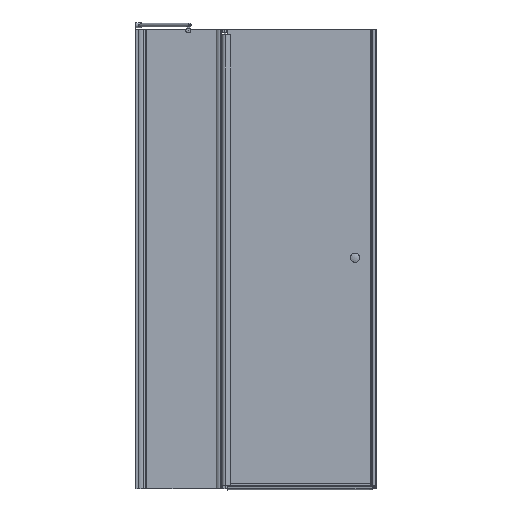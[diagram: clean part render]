
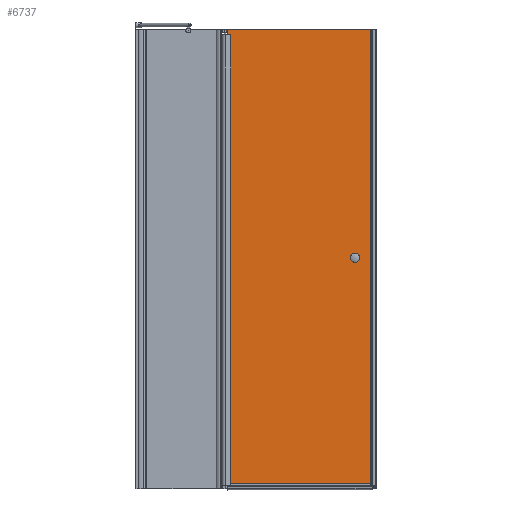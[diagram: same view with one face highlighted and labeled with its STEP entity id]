
A CAD part, front view. The second image highlights one B-rep face of the part: STEP entity #6737.
In plain terms, the highlighted planar face has unit normal (0, -1, 0).
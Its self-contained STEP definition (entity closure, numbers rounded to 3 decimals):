
#128=PLANE($,#7194);
#420=FACE_OUTER_BOUND($,#784,.T.);
#784=EDGE_LOOP($,(#4782,#4783,#4784,#4785,#4786,#4787));
#1226=LINE($,#10397,#1870);
#1285=LINE($,#10552,#1929);
#1286=LINE($,#10554,#1930);
#1287=LINE($,#10556,#1931);
#1288=LINE($,#10558,#1932);
#1289=LINE($,#10559,#1933);
#1870=VECTOR($,#8134,585.226);
#1929=VECTOR($,#8269,1877.06);
#1930=VECTOR($,#8270,600.);
#1931=VECTOR($,#8271,22.);
#1932=VECTOR($,#8272,14.774);
#1933=VECTOR($,#8273,1855.06);
#2825=VERTEX_POINT($,#10394);
#2826=VERTEX_POINT($,#10396);
#2874=VERTEX_POINT($,#10551);
#2875=VERTEX_POINT($,#10553);
#2876=VERTEX_POINT($,#10555);
#2877=VERTEX_POINT($,#10557);
#3525=EDGE_CURVE($,#2826,#2825,#1226,.T.);
#3600=EDGE_CURVE($,#2825,#2874,#1285,.T.);
#3601=EDGE_CURVE($,#2875,#2874,#1286,.T.);
#3602=EDGE_CURVE($,#2876,#2875,#1287,.T.);
#3603=EDGE_CURVE($,#2876,#2877,#1288,.T.);
#3604=EDGE_CURVE($,#2826,#2877,#1289,.T.);
#4782=ORIENTED_EDGE($,*,*,#3525,.T.);
#4783=ORIENTED_EDGE($,*,*,#3600,.T.);
#4784=ORIENTED_EDGE($,*,*,#3601,.F.);
#4785=ORIENTED_EDGE($,*,*,#3602,.F.);
#4786=ORIENTED_EDGE($,*,*,#3603,.T.);
#4787=ORIENTED_EDGE($,*,*,#3604,.F.);
#6737=ADVANCED_FACE($,(#420),#128,.T.);
#7194=AXIS2_PLACEMENT_3D($,#10550,#8267,#8268);
#8134=DIRECTION($,(1.,0.,0.));
#8267=DIRECTION('center_axis',(0.,-1.,0.));
#8268=DIRECTION('ref_axis',(1.,0.,0.));
#8269=DIRECTION($,(0.,0.,1.));
#8270=DIRECTION($,(1.,0.,0.));
#8271=DIRECTION($,(0.,0.,1.));
#8272=DIRECTION($,(1.,0.,0.));
#8273=DIRECTION($,(0.,0.,1.));
#10394=CARTESIAN_POINT('',(1562.786,15.732,-492.116));
#10396=CARTESIAN_POINT('',(977.559,15.732,-492.116));
#10397=CARTESIAN_POINT($,(962.786,15.732,-492.116));
#10550=CARTESIAN_POINT('Origin',(962.786,15.732,-502.056));
#10551=CARTESIAN_POINT('',(1562.786,15.732,1384.944));
#10552=CARTESIAN_POINT($,(1562.786,15.732,-502.056));
#10553=CARTESIAN_POINT('',(962.786,15.732,1384.944));
#10554=CARTESIAN_POINT($,(962.786,15.732,1384.944));
#10555=CARTESIAN_POINT('',(962.786,15.732,1362.944));
#10556=CARTESIAN_POINT($,(962.786,15.732,-502.056));
#10557=CARTESIAN_POINT('',(977.559,15.732,1362.944));
#10558=CARTESIAN_POINT($,(961.572,15.732,1362.944));
#10559=CARTESIAN_POINT($,(977.559,15.732,-502.056));
